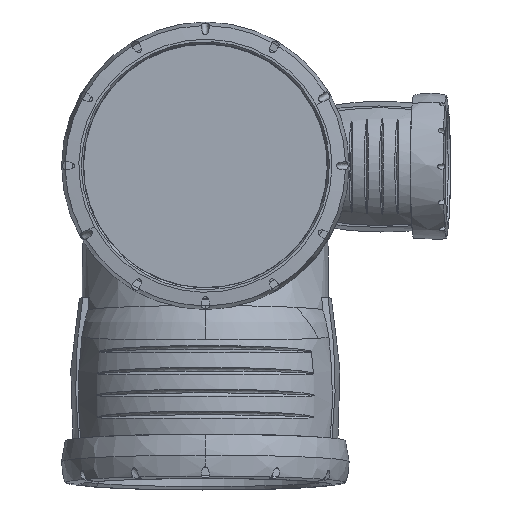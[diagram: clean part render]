
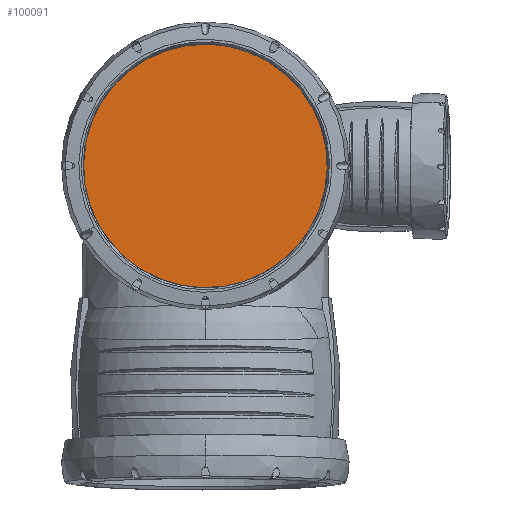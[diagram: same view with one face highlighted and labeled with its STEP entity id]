
A CAD part, top view. The second image highlights one B-rep face of the part: STEP entity #100091.
In plain terms, the highlighted planar face has unit normal (0, 0, 1).
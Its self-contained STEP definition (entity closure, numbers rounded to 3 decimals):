
#99636=CARTESIAN_POINT('',(-48.706,-26.608,283.2));
#99637=VERTEX_POINT('',#99636);
#99651=CARTESIAN_POINT('',(0.,0.,283.2));
#99656=DIRECTION('',(0.,0.,-1.));
#99661=DIRECTION('',(-0.878,-0.479,0.));
#99666=AXIS2_PLACEMENT_3D('',#99651,#99656,#99661);
#99671=CIRCLE('',#99666,55.5);
#99676=CARTESIAN_POINT('',(48.706,26.608,283.2));
#99677=VERTEX_POINT('',#99676);
#99681=EDGE_CURVE('',#99637,#99677,#99671,.T.);
#99821=CARTESIAN_POINT('',(0.,0.,283.2));
#99826=DIRECTION('',(0.,0.,-1.));
#99831=DIRECTION('',(0.878,0.479,0.));
#99836=AXIS2_PLACEMENT_3D('',#99821,#99826,#99831);
#99841=CIRCLE('',#99836,55.5);
#99846=EDGE_CURVE('',#99677,#99637,#99841,.T.);
#100046=DIRECTION('',(0.,0.,1.));
#100051=CARTESIAN_POINT('',(-77.548,22.885,283.2));
#100056=DIRECTION('',(0.498,-0.867,0.));
#100061=AXIS2_PLACEMENT_3D('',#100051,#100046,#100056);
#100066=PLANE('',#100061);
#100071=ORIENTED_EDGE('',*,*,#99681,.F.);
#100076=ORIENTED_EDGE('',*,*,#99846,.F.);
#100081=EDGE_LOOP('',(#100071,#100076));
#100086=FACE_OUTER_BOUND('',#100081,.T.);
#100091=ADVANCED_FACE('',(#100086),#100066,.T.);
